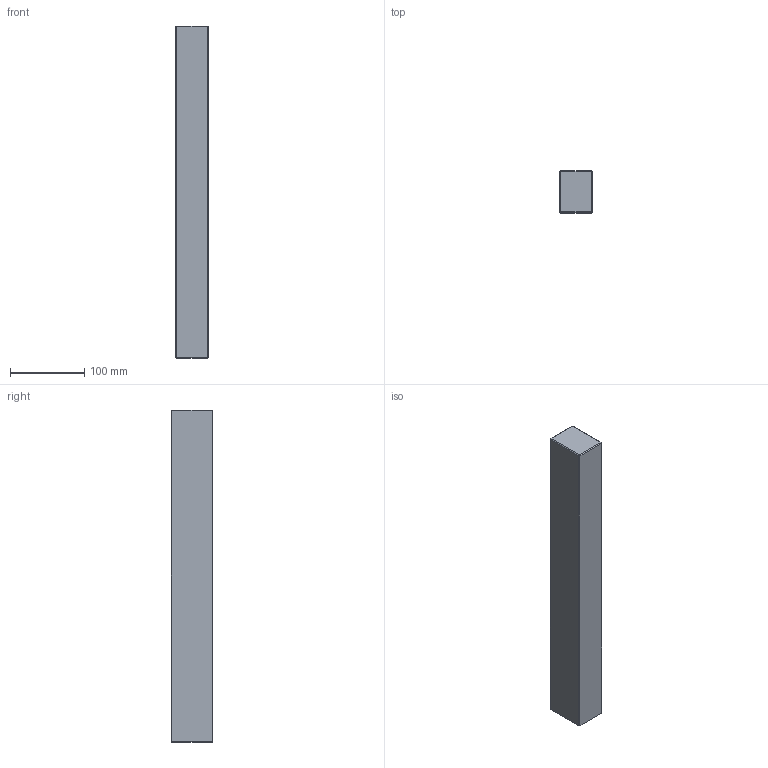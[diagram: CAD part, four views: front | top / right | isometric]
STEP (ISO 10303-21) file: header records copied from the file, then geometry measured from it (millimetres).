
FILE_DESCRIPTION (( 'STEP AP214' ), '1' );
FILE_NAME ('ESP-P-246X446x56.STEP', '2020-04-08T10:41:50', ( 'August' ), ( '' ), 'SwSTEP 2.0', 'SolidWorks 2018', '' );
FILE_SCHEMA (( 'AUTOMOTIVE_DESIGN' ));
Length unit declared in the file: millimetre
Products named in the file (1): ESP-P-246X446x56
Bounding box: 43 x 56 x 446 mm (x, y, z)
Volume: 1072883.3 mm3; surface area: 91844 mm2
Topology: 1 solids, 1 shells, 26 faces, 48 edges, 24 vertices
Faces by surface type: plane 26
Entity records: 634 total; most frequent: DIRECTION 102, CARTESIAN_POINT 99, ORIENTED_EDGE 96, EDGE_CURVE 48, LINE 48, VECTOR 48, AXIS2_PLACEMENT_3D 27, ADVANCED_FACE 26
